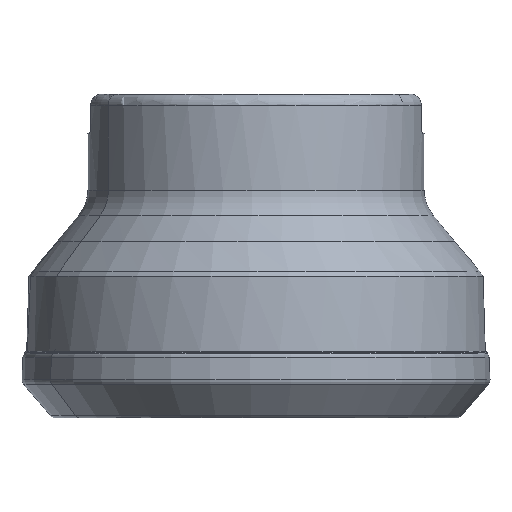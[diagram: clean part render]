
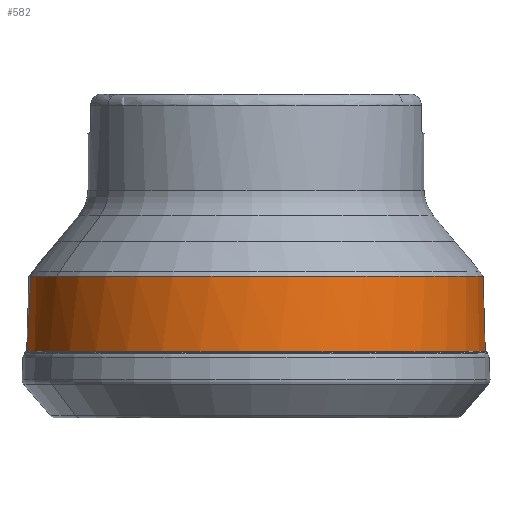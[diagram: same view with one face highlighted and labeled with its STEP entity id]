
A CAD part, front view. The second image highlights one B-rep face of the part: STEP entity #582.
In plain terms, the highlighted face is a revolution surface.
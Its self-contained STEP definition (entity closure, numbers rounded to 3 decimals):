
#507=AXIS2_PLACEMENT_3D('Circle Axis2P3D',#505,#506,$) ;
#559=AXIS2_PLACEMENT_3D('Circle Axis2P3D',#557,#558,$) ;
#566=AXIS2_PLACEMENT_3D('Circle Axis2P3D',#564,#565,$) ;
#502=CARTESIAN_POINT('Vertex',(35.33,3.65,-39.782)) ;
#505=CARTESIAN_POINT('Axis2P3D Location',(0.,0.,-39.782)) ;
#509=CARTESIAN_POINT('Vertex',(-35.33,-3.65,-39.782)) ;
#543=CARTESIAN_POINT('Line Origine',(-32.765,13.173,-33.945)) ;
#547=CARTESIAN_POINT('Axis1P Location',(0.,0.,-48.984)) ;
#552=CARTESIAN_POINT('Control Point',(35.33,3.65,-39.782)) ;
#553=CARTESIAN_POINT('Control Point',(34.809,4.646,-28.109)) ;
#554=CARTESIAN_POINT('Vertex',(34.809,4.646,-28.109)) ;
#557=CARTESIAN_POINT('Axis2P3D Location',(0.,0.,-28.109)) ;
#561=CARTESIAN_POINT('Vertex',(-30.818,-16.836,-28.109)) ;
#564=CARTESIAN_POINT('Axis2P3D Location',(0.,0.,-28.109)) ;
#568=CARTESIAN_POINT('Vertex',(-34.809,-4.646,-28.109)) ;
#572=CARTESIAN_POINT('Control Point',(-35.33,-3.65,-39.782)) ;
#573=CARTESIAN_POINT('Control Point',(-34.809,-4.646,-28.109)) ;
#506=DIRECTION('Axis2P3D Direction',(0.,0.,1.)) ;
#544=DIRECTION('Vector Direction',(-0.002,-0.096,0.995)) ;
#548=DIRECTION('Axis1P Direction',(0.,0.,1.)) ;
#558=DIRECTION('Axis2P3D Direction',(0.,0.,1.)) ;
#565=DIRECTION('Axis2P3D Direction',(0.,0.,1.)) ;
#545=VECTOR('Line Direction',#544,1.) ;
#549=AXIS1_PLACEMENT('Revolution Surface Axis1P',#547,#548) ;
#576=ORIENTED_EDGE('',*,*,#556,.T.) ;
#577=ORIENTED_EDGE('',*,*,#563,.F.) ;
#578=ORIENTED_EDGE('',*,*,#570,.F.) ;
#579=ORIENTED_EDGE('',*,*,#574,.F.) ;
#580=ORIENTED_EDGE('',*,*,#511,.T.) ;
#582=ADVANCED_FACE('NOCUT',(#581),#550,.T.) ;
#551=B_SPLINE_CURVE_WITH_KNOTS('',1,(#552,#553),.UNSPECIFIED.,.F.,.U.,(2,2),(-3.915,7.812),.UNSPECIFIED.) ;
#571=B_SPLINE_CURVE_WITH_KNOTS('',1,(#572,#573),.UNSPECIFIED.,.F.,.U.,(2,2),(-3.915,7.812),.UNSPECIFIED.) ;
#508=CIRCLE('generated circle',#507,35.518) ;
#560=CIRCLE('generated circle',#559,35.117) ;
#567=CIRCLE('generated circle',#566,35.117) ;
#511=EDGE_CURVE('',#510,#503,#508,.T.) ;
#556=EDGE_CURVE('',#503,#555,#551,.T.) ;
#563=EDGE_CURVE('',#562,#555,#560,.T.) ;
#570=EDGE_CURVE('',#569,#562,#567,.T.) ;
#574=EDGE_CURVE('',#510,#569,#571,.T.) ;
#575=EDGE_LOOP('',(#576,#577,#578,#579,#580)) ;
#581=FACE_OUTER_BOUND('',#575,.T.) ;
#546=LINE('Line',#543,#545) ;
#550=SURFACE_OF_REVOLUTION('Surface of Revolution',#546,#549) ;
#503=VERTEX_POINT('',#502) ;
#510=VERTEX_POINT('',#509) ;
#555=VERTEX_POINT('',#554) ;
#562=VERTEX_POINT('',#561) ;
#569=VERTEX_POINT('',#568) ;
